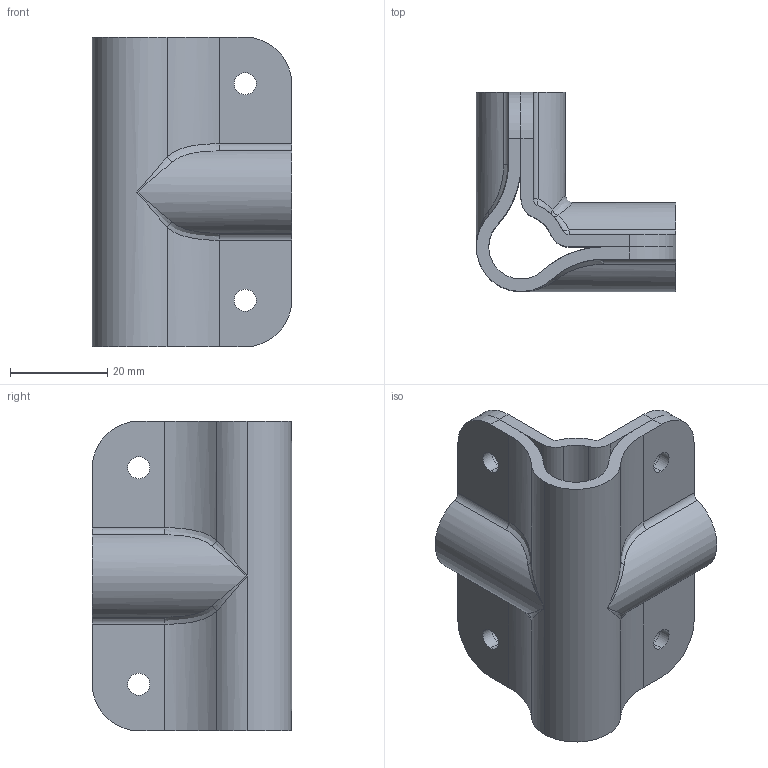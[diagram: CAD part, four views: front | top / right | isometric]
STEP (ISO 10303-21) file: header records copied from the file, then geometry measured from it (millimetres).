
FILE_DESCRIPTION (( 'STEP AP214' ), '1' );
FILE_NAME ('DRP-002-0100.STEP', '2010-08-12T18:10:05', ( '' ), ( '' ), 'SwSTEP 2.0', 'SolidWorks 2010', '' );
FILE_SCHEMA (( 'AUTOMOTIVE_DESIGN' ));
Length unit declared in the file: inch
Products named in the file (1): DRP-002-0100
Bounding box: 40.89 x 40.89 x 63.5 mm (x, y, z)
Volume: 22094.3 mm3; surface area: 18991 mm2
Topology: 2 solids, 2 shells, 136 faces, 348 edges, 204 vertices
Faces by surface type: cylinder 74, bspline 26, plane 24, sphere 12
Entity records: 6745 total; most frequent: CARTESIAN_POINT 1803, ORIENTED_EDGE 672, DIRECTION 658, EDGE_CURVE 336, AXIS2_PLACEMENT_3D 263, VERTEX_POINT 204, CIRCLE 152, EDGE_LOOP 152
